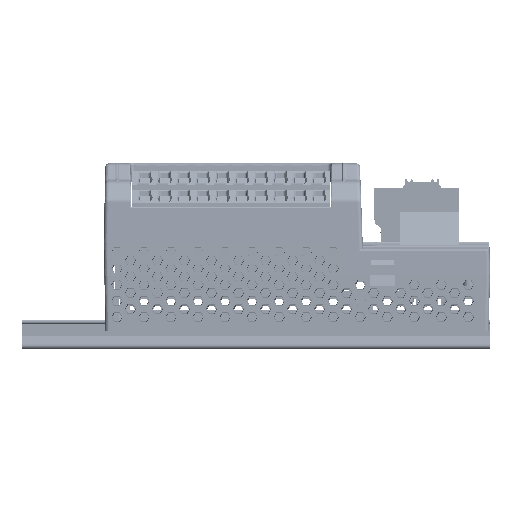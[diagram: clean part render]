
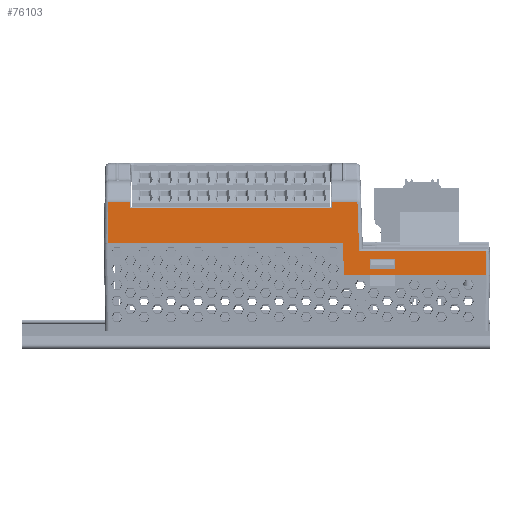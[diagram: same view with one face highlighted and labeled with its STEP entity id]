
A CAD part, top view. The second image highlights one B-rep face of the part: STEP entity #76103.
In plain terms, the highlighted planar face has unit normal (0, 0.018, 1).
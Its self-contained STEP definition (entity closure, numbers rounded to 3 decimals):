
#76103=ADVANCED_FACE('',(#100499,#100500),#93305,.F.);
#93305=PLANE('',#445765);
#100499=FACE_BOUND('',#117858,.T.);
#100500=FACE_BOUND('',#117859,.T.);
#117858=EDGE_LOOP('',(#204245,#204246,#204247,#204248,#204249,#204250,#204251,
#204252,#204253,#204254,#204255,#204256));
#117859=EDGE_LOOP('',(#204257,#204258,#204259,#204260));
#204245=ORIENTED_EDGE('',*,*,#321839,.T.);
#204246=ORIENTED_EDGE('',*,*,#321840,.T.);
#204247=ORIENTED_EDGE('',*,*,#321841,.T.);
#204248=ORIENTED_EDGE('',*,*,#321842,.T.);
#204249=ORIENTED_EDGE('',*,*,#321843,.T.);
#204250=ORIENTED_EDGE('',*,*,#321844,.T.);
#204251=ORIENTED_EDGE('',*,*,#321572,.F.);
#204252=ORIENTED_EDGE('',*,*,#321845,.T.);
#204253=ORIENTED_EDGE('',*,*,#321846,.F.);
#204254=ORIENTED_EDGE('',*,*,#321822,.T.);
#204255=ORIENTED_EDGE('',*,*,#321838,.T.);
#204256=ORIENTED_EDGE('',*,*,#321847,.T.);
#204257=ORIENTED_EDGE('',*,*,#321819,.F.);
#204258=ORIENTED_EDGE('',*,*,#321524,.F.);
#204259=ORIENTED_EDGE('',*,*,#321817,.F.);
#204260=ORIENTED_EDGE('',*,*,#321814,.F.);
#269811=VERTEX_POINT('',#692355);
#269812=VERTEX_POINT('',#692357);
#269859=VERTEX_POINT('',#692454);
#269860=VERTEX_POINT('',#692456);
#270059=VERTEX_POINT('',#692977);
#270060=VERTEX_POINT('',#692979);
#270063=VERTEX_POINT('',#692992);
#270064=VERTEX_POINT('',#692994);
#270070=VERTEX_POINT('',#693048);
#270071=VERTEX_POINT('',#693052);
#270072=VERTEX_POINT('',#693053);
#270073=VERTEX_POINT('',#693055);
#270074=VERTEX_POINT('',#693057);
#270075=VERTEX_POINT('',#693059);
#270076=VERTEX_POINT('',#693061);
#270077=VERTEX_POINT('',#693064);
#321524=EDGE_CURVE('',#269811,#269812,#367506,.T.);
#321572=EDGE_CURVE('',#269859,#269860,#367550,.T.);
#321814=EDGE_CURVE('',#270059,#270060,#367743,.T.);
#321817=EDGE_CURVE('',#270060,#269811,#367746,.T.);
#321819=EDGE_CURVE('',#269812,#270059,#367748,.T.);
#321822=EDGE_CURVE('',#270064,#270063,#367750,.T.);
#321838=EDGE_CURVE('',#270063,#270070,#367761,.T.);
#321839=EDGE_CURVE('',#270071,#270072,#367762,.T.);
#321840=EDGE_CURVE('',#270072,#270073,#367763,.T.);
#321841=EDGE_CURVE('',#270073,#270074,#367764,.T.);
#321842=EDGE_CURVE('',#270074,#270075,#367765,.T.);
#321843=EDGE_CURVE('',#270075,#270076,#367766,.T.);
#321844=EDGE_CURVE('',#270076,#269860,#367767,.T.);
#321845=EDGE_CURVE('',#269859,#270077,#367768,.T.);
#321846=EDGE_CURVE('',#270064,#270077,#367769,.T.);
#321847=EDGE_CURVE('',#270070,#270071,#367770,.T.);
#367506=LINE('',#692356,#410552);
#367550=LINE('',#692455,#410596);
#367743=LINE('',#692978,#410789);
#367746=LINE('',#692983,#410792);
#367748=LINE('',#692986,#410794);
#367750=LINE('',#692993,#410796);
#367761=LINE('',#693049,#410807);
#367762=LINE('',#693051,#410808);
#367763=LINE('',#693054,#410809);
#367764=LINE('',#693056,#410810);
#367765=LINE('',#693058,#410811);
#367766=LINE('',#693060,#410812);
#367767=LINE('',#693062,#410813);
#367768=LINE('',#693063,#410814);
#367769=LINE('',#693065,#410815);
#367770=LINE('',#693066,#410816);
#410552=VECTOR('',#519680,1.);
#410596=VECTOR('',#519738,1.);
#410789=VECTOR('',#520071,1.);
#410792=VECTOR('',#520076,1.);
#410794=VECTOR('',#520080,1.);
#410796=VECTOR('',#520086,1.);
#410807=VECTOR('',#520117,1.);
#410808=VECTOR('',#520120,1.);
#410809=VECTOR('',#520121,1.);
#410810=VECTOR('',#520122,1.);
#410811=VECTOR('',#520123,1.);
#410812=VECTOR('',#520124,1.);
#410813=VECTOR('',#520125,1.);
#410814=VECTOR('',#520126,1.);
#410815=VECTOR('',#520127,1.);
#410816=VECTOR('',#520128,1.);
#445765=AXIS2_PLACEMENT_3D('',#693067,#520129,#520130);
#519680=DIRECTION('',(-1.,0.,0.));
#519738=DIRECTION('',(-1.,0.,0.));
#520071=DIRECTION('',(1.,0.,0.));
#520076=DIRECTION('',(0.,1.,-0.017));
#520080=DIRECTION('',(0.,-1.,0.017));
#520086=DIRECTION('',(-0.017,1.,-0.017));
#520117=DIRECTION('',(-1.,0.,0.));
#520120=DIRECTION('',(-1.,0.,0.));
#520121=DIRECTION('',(-0.017,-1.,0.017));
#520122=DIRECTION('',(-1.,0.,0.));
#520123=DIRECTION('',(-0.017,1.,-0.017));
#520124=DIRECTION('',(-1.,0.,0.));
#520125=DIRECTION('',(-0.017,-1.,0.017));
#520126=DIRECTION('',(0.035,-0.999,0.017));
#520127=DIRECTION('',(-1.,0.,0.));
#520128=DIRECTION('',(-0.035,0.999,-0.017));
#520129=DIRECTION('',(0.,-0.017,-1.));
#520130=DIRECTION('',(0.,1.,-0.017));
#692355=CARTESIAN_POINT('',(71.397,17.75,199.926));
#692356=CARTESIAN_POINT('',(66.151,17.75,199.926));
#692357=CARTESIAN_POINT('',(64.897,17.75,199.926));
#692454=CARTESIAN_POINT('',(57.9,21.9,199.853));
#692455=CARTESIAN_POINT('',(66.151,21.9,199.853));
#692456=CARTESIAN_POINT('',(-3.,21.9,199.853));
#692977=CARTESIAN_POINT('',(64.897,15.,199.974));
#692978=CARTESIAN_POINT('',(70.647,15.,199.974));
#692979=CARTESIAN_POINT('',(71.397,15.,199.974));
#692983=CARTESIAN_POINT('',(71.397,17.975,199.922));
#692986=CARTESIAN_POINT('',(64.897,14.476,199.983));
#692992=CARTESIAN_POINT('',(94.891,19.759,199.891));
#692993=CARTESIAN_POINT('',(94.991,14.003,199.991));
#692994=CARTESIAN_POINT('',(95.,13.5,200.));
#693048=CARTESIAN_POINT('',(62.113,19.759,199.891));
#693049=CARTESIAN_POINT('',(66.151,19.759,199.891));
#693051=CARTESIAN_POINT('',(66.151,32.393,199.67));
#693052=CARTESIAN_POINT('',(61.672,32.393,199.67));
#693053=CARTESIAN_POINT('',(55.028,32.393,199.67));
#693054=CARTESIAN_POINT('',(54.701,13.7,199.997));
#693055=CARTESIAN_POINT('',(55.002,30.905,199.696));
#693056=CARTESIAN_POINT('',(66.151,30.905,199.696));
#693057=CARTESIAN_POINT('',(2.773,30.905,199.696));
#693058=CARTESIAN_POINT('',(3.096,12.4,200.019));
#693059=CARTESIAN_POINT('',(2.747,32.393,199.67));
#693060=CARTESIAN_POINT('',(66.151,32.393,199.67));
#693061=CARTESIAN_POINT('',(-2.817,32.393,199.67));
#693062=CARTESIAN_POINT('',(-3.126,14.709,199.979));
#693063=CARTESIAN_POINT('',(58.203,13.223,200.005));
#693064=CARTESIAN_POINT('',(58.193,13.5,200.));
#693065=CARTESIAN_POINT('',(44.5,13.5,200.));
#693066=CARTESIAN_POINT('',(62.336,13.367,200.002));
#693067=CARTESIAN_POINT('',(66.151,13.5,200.));
